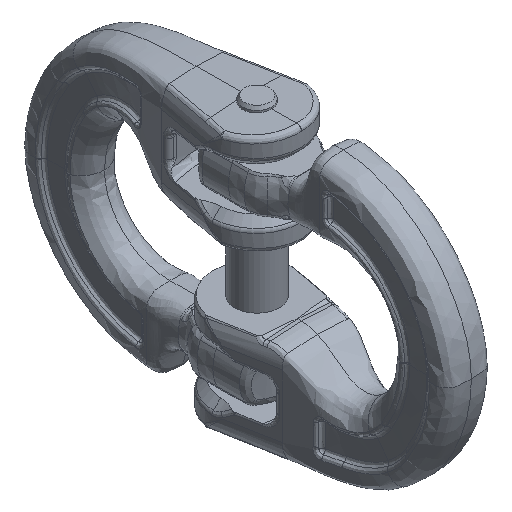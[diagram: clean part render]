
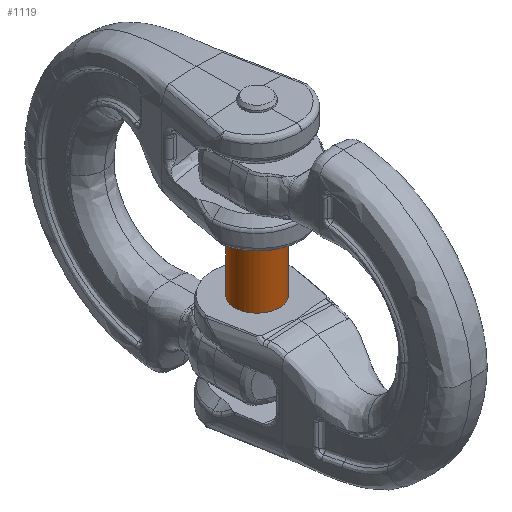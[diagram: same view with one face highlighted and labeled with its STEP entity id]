
A CAD part, isometric view. The second image highlights one B-rep face of the part: STEP entity #1119.
In plain terms, the highlighted cylindrical face has radius 14 mm (diameter 28 mm), a full revolution.
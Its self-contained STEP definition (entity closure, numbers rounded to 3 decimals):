
#80=FACE_BOUND('',#2122,.T.);
#81=FACE_BOUND('',#2123,.T.);
#488=CIRCLE('',#7439,14.);
#489=CIRCLE('',#7440,14.);
#1119=ADVANCED_FACE('',(#80,#81),#1383,.T.);
#1383=CYLINDRICAL_SURFACE('',#7441,14.);
#2122=EDGE_LOOP('',(#3677));
#2123=EDGE_LOOP('',(#3678));
#3677=ORIENTED_EDGE('',*,*,#5983,.T.);
#3678=ORIENTED_EDGE('',*,*,#5984,.F.);
#5106=VERTEX_POINT('',#24155);
#5107=VERTEX_POINT('',#24157);
#5983=EDGE_CURVE('',#5106,#5106,#488,.T.);
#5984=EDGE_CURVE('',#5107,#5107,#489,.T.);
#7439=AXIS2_PLACEMENT_3D('',#24154,#8316,#8317);
#7440=AXIS2_PLACEMENT_3D('',#24156,#8318,#8319);
#7441=AXIS2_PLACEMENT_3D('',#24158,#8320,#8321);
#8316=DIRECTION('',(0.,0.,-1.));
#8317=DIRECTION('',(1.,0.,0.));
#8318=DIRECTION('',(0.,0.,-1.));
#8319=DIRECTION('',(1.,0.,0.));
#8320=DIRECTION('',(0.,0.,-1.));
#8321=DIRECTION('',(-1.,0.,0.));
#24154=CARTESIAN_POINT('',(0.,0.,43.25));
#24155=CARTESIAN_POINT('',(14.,0.,43.25));
#24156=CARTESIAN_POINT('',(0.,0.,0.25));
#24157=CARTESIAN_POINT('',(14.,0.,0.25));
#24158=CARTESIAN_POINT('',(0.,0.,43.25));
